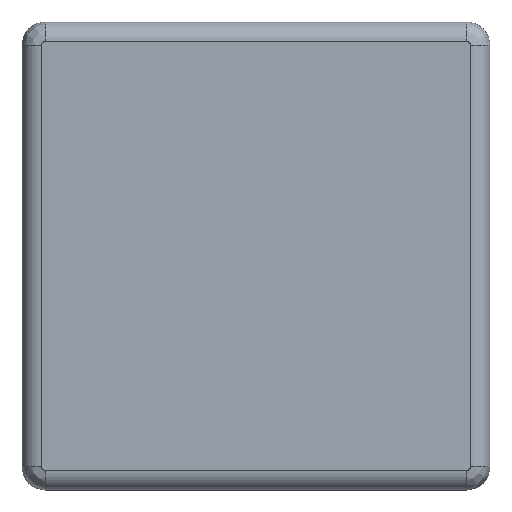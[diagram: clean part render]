
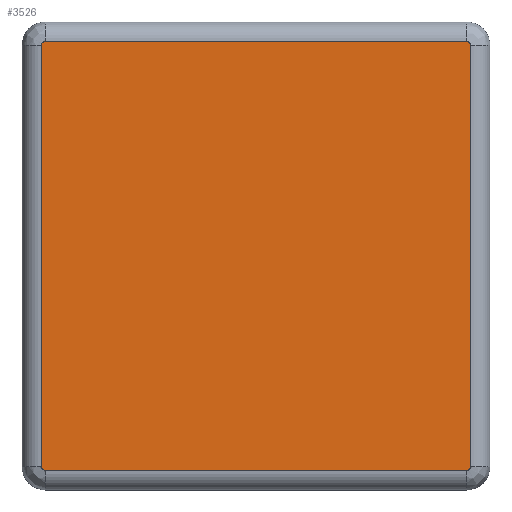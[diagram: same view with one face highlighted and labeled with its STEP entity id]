
A CAD part, top view. The second image highlights one B-rep face of the part: STEP entity #3526.
In plain terms, the highlighted planar face has unit normal (0, 0, 1).
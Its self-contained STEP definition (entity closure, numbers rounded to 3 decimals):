
#34 = VECTOR ( 'NONE', #3424, 1000. ) ;
#38 = CARTESIAN_POINT ( 'NONE',  ( 27.5, 27.293, 0. ) ) ;
#68 = CARTESIAN_POINT ( 'NONE',  ( -27.5, -27., 0. ) ) ;
#88 = CARTESIAN_POINT ( 'NONE',  ( 27.5, 27., 0. ) ) ;
#162 = VERTEX_POINT ( 'NONE', #68 ) ;
#179 =( BOUNDED_CURVE ( )  B_SPLINE_CURVE ( 3, ( #3708, #3323, #1459, #578 ),
 .UNSPECIFIED., .F., .F. ) 
 B_SPLINE_CURVE_WITH_KNOTS ( ( 4, 4 ),
 ( 0., 1. ),
 .UNSPECIFIED. ) 
 CURVE ( )  GEOMETRIC_REPRESENTATION_ITEM ( )  RATIONAL_B_SPLINE_CURVE ( ( 1., 0.805, 0.805, 1. ) ) 
 REPRESENTATION_ITEM ( '' )  );
#191 = DIRECTION ( 'NONE',  ( 1., 0., 0. ) ) ;
#196 = ORIENTED_EDGE ( 'NONE', *, *, #3357, .F. ) ;
#199 = LINE ( 'NONE', #953, #1944 ) ;
#211 = LINE ( 'NONE', #4762, #4161 ) ;
#214 = EDGE_CURVE ( 'NONE', #3985, #162, #2158, .T. ) ;
#222 = CARTESIAN_POINT ( 'NONE',  ( -27., -27.5, 0. ) ) ;
#236 = VECTOR ( 'NONE', #2532, 1000. ) ;
#410 = EDGE_LOOP ( 'NONE', ( #3647, #1694, #1029, #4269, #1820, #4779, #196, #2948 ) ) ;
#578 = CARTESIAN_POINT ( 'NONE',  ( 27., -27.5, 0. ) ) ;
#721 = EDGE_CURVE ( 'NONE', #2725, #2049, #179, .T. ) ;
#741 = DIRECTION ( 'NONE',  ( -1., 0., 0. ) ) ;
#891 =( BOUNDED_CURVE ( )  B_SPLINE_CURVE ( 3, ( #2538, #2147, #4051, #2166 ),
 .UNSPECIFIED., .F., .F. ) 
 B_SPLINE_CURVE_WITH_KNOTS ( ( 4, 4 ),
 ( 0., 1. ),
 .UNSPECIFIED. ) 
 CURVE ( )  GEOMETRIC_REPRESENTATION_ITEM ( )  RATIONAL_B_SPLINE_CURVE ( ( 1., 0.805, 0.805, 1. ) ) 
 REPRESENTATION_ITEM ( '' )  );
#924 = CARTESIAN_POINT ( 'NONE',  ( -27.5, -27., 0. ) ) ;
#932 = CARTESIAN_POINT ( 'NONE',  ( -27., 27.5, 0. ) ) ;
#953 = CARTESIAN_POINT ( 'NONE',  ( -27., 27.5, 0. ) ) ;
#984 = DIRECTION ( 'NONE',  ( 1., 0., 0. ) ) ;
#991 = CARTESIAN_POINT ( 'NONE',  ( -27., -27., 0. ) ) ;
#1029 = ORIENTED_EDGE ( 'NONE', *, *, #4627, .F. ) ;
#1040 =( BOUNDED_CURVE ( )  B_SPLINE_CURVE ( 3, ( #4542, #2713, #38, #88 ),
 .UNSPECIFIED., .F., .F. ) 
 B_SPLINE_CURVE_WITH_KNOTS ( ( 4, 4 ),
 ( 0., 1. ),
 .UNSPECIFIED. ) 
 CURVE ( )  GEOMETRIC_REPRESENTATION_ITEM ( )  RATIONAL_B_SPLINE_CURVE ( ( 1., 0.805, 0.805, 1. ) ) 
 REPRESENTATION_ITEM ( '' )  );
#1125 = CARTESIAN_POINT ( 'NONE',  ( 27.5, -27., 0. ) ) ;
#1459 = CARTESIAN_POINT ( 'NONE',  ( 27.293, -27.5, 0. ) ) ;
#1694 = ORIENTED_EDGE ( 'NONE', *, *, #214, .T. ) ;
#1768 = EDGE_CURVE ( 'NONE', #2725, #4685, #3011, .T. ) ;
#1820 = ORIENTED_EDGE ( 'NONE', *, *, #721, .F. ) ;
#1922 = VERTEX_POINT ( 'NONE', #1999 ) ;
#1944 = VECTOR ( 'NONE', #741, 1000. ) ;
#1949 = CARTESIAN_POINT ( 'NONE',  ( -27.5, 27., 0. ) ) ;
#1999 = CARTESIAN_POINT ( 'NONE',  ( 27., 27.5, 0. ) ) ;
#2049 = VERTEX_POINT ( 'NONE', #2835 ) ;
#2071 = EDGE_CURVE ( 'NONE', #3985, #4533, #891, .T. ) ;
#2147 = CARTESIAN_POINT ( 'NONE',  ( -27.5, 27.293, 0. ) ) ;
#2158 = LINE ( 'NONE', #924, #236 ) ;
#2166 = CARTESIAN_POINT ( 'NONE',  ( -27., 27.5, 0. ) ) ;
#2267 = CARTESIAN_POINT ( 'NONE',  ( -27., -27.5, 0. ) ) ;
#2532 = DIRECTION ( 'NONE',  ( 0., -1., 0. ) ) ;
#2538 = CARTESIAN_POINT ( 'NONE',  ( -27.5, 27., 0. ) ) ;
#2708 = EDGE_CURVE ( 'NONE', #3073, #2049, #211, .T. ) ;
#2713 = CARTESIAN_POINT ( 'NONE',  ( 27.293, 27.5, 0. ) ) ;
#2725 = VERTEX_POINT ( 'NONE', #1125 ) ;
#2835 = CARTESIAN_POINT ( 'NONE',  ( 27., -27.5, 0. ) ) ;
#2868 = CARTESIAN_POINT ( 'NONE',  ( -27.5, -27., 0. ) ) ;
#2948 = ORIENTED_EDGE ( 'NONE', *, *, #4618, .T. ) ;
#3011 = LINE ( 'NONE', #4519, #34 ) ;
#3073 = VERTEX_POINT ( 'NONE', #222 ) ;
#3211 = CARTESIAN_POINT ( 'NONE',  ( -27.5, -27.293, 0. ) ) ;
#3249 = FACE_OUTER_BOUND ( 'NONE', #410, .T. ) ;
#3323 = CARTESIAN_POINT ( 'NONE',  ( 27.5, -27.293, 0. ) ) ;
#3357 = EDGE_CURVE ( 'NONE', #1922, #4685, #1040, .T. ) ;
#3424 = DIRECTION ( 'NONE',  ( 0., 1., 0. ) ) ;
#3526 = ADVANCED_FACE ( 'NONE', ( #3249 ), #4396, .T. ) ;
#3647 = ORIENTED_EDGE ( 'NONE', *, *, #2071, .F. ) ;
#3708 = CARTESIAN_POINT ( 'NONE',  ( 27.5, -27., 0. ) ) ;
#3982 = DIRECTION ( 'NONE',  ( 0., 0., 1. ) ) ;
#3985 = VERTEX_POINT ( 'NONE', #1949 ) ;
#3993 = AXIS2_PLACEMENT_3D ( 'NONE', #991, #3982, #191 ) ;
#4051 = CARTESIAN_POINT ( 'NONE',  ( -27.293, 27.5, 0. ) ) ;
#4078 = CARTESIAN_POINT ( 'NONE',  ( 27.5, 27., 0. ) ) ;
#4161 = VECTOR ( 'NONE', #984, 1000. ) ;
#4269 = ORIENTED_EDGE ( 'NONE', *, *, #2708, .T. ) ;
#4396 = PLANE ( 'NONE',  #3993 ) ;
#4519 = CARTESIAN_POINT ( 'NONE',  ( 27.5, -27., 0. ) ) ;
#4533 = VERTEX_POINT ( 'NONE', #932 ) ;
#4542 = CARTESIAN_POINT ( 'NONE',  ( 27., 27.5, 0. ) ) ;
#4568 =( BOUNDED_CURVE ( )  B_SPLINE_CURVE ( 3, ( #2267, #4732, #3211, #2868 ),
 .UNSPECIFIED., .F., .F. ) 
 B_SPLINE_CURVE_WITH_KNOTS ( ( 4, 4 ),
 ( 0., 1. ),
 .UNSPECIFIED. ) 
 CURVE ( )  GEOMETRIC_REPRESENTATION_ITEM ( )  RATIONAL_B_SPLINE_CURVE ( ( 1., 0.805, 0.805, 1. ) ) 
 REPRESENTATION_ITEM ( '' )  );
#4618 = EDGE_CURVE ( 'NONE', #1922, #4533, #199, .T. ) ;
#4627 = EDGE_CURVE ( 'NONE', #3073, #162, #4568, .T. ) ;
#4685 = VERTEX_POINT ( 'NONE', #4078 ) ;
#4732 = CARTESIAN_POINT ( 'NONE',  ( -27.293, -27.5, 0. ) ) ;
#4762 = CARTESIAN_POINT ( 'NONE',  ( -27., -27.5, 0. ) ) ;
#4779 = ORIENTED_EDGE ( 'NONE', *, *, #1768, .T. ) ;
